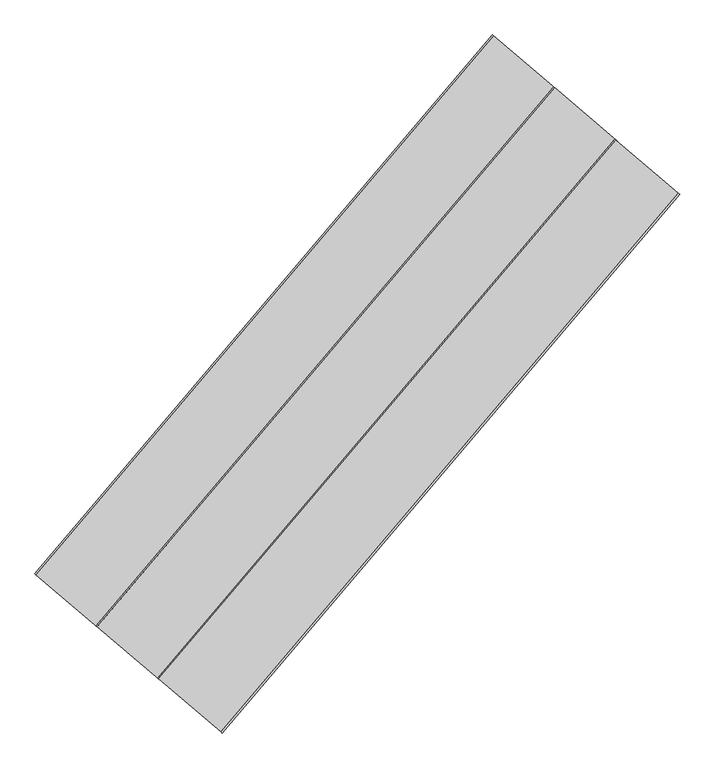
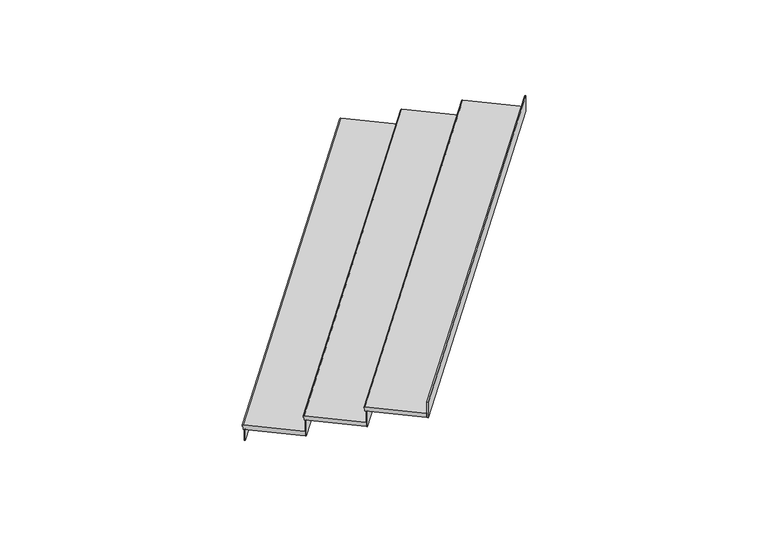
"""IFC4 building model written with IfcOpenShell, lengths in millimetres: stair flight geometry, Wood Steps with 50 mm Tread 20 mm Nosing 13 mm Riser."""

from ifc_helpers import new_model, si_unit, point, frame, frame_2d, origin, place, context, project, spatial, polyline, circle_curve, trimmed, segment, composite_curve, outline, extrude, source, transform, mapped, element, save


def stair_flight_5fbceaa4(model_context):
    return source(origin(), model_context, "Body", "SweptSolid", [
        extrude(outline(composite_curve([segment(polyline([(0.0, -598.4107719), (0.0, 0.0)]), True, "CONTINUOUS"), segment(trimmed(circle_curve(frame_2d((10.0, 0.0)), 10.0), [point((0.0, 0.0))], [point((20.0, 0.0))], False, "CARTESIAN"), True, "CONTINUOUS"), segment(polyline([(20.0, 0.0), (50.0, 0.0), (50.0, -598.4107719), (0.0, -598.4107719)]), True, "CONTINUOUS")], self_intersect=False)), frame((830959.1454458, 54663.5315135, 1179.2941176), z_axis=(0.647356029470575, 0.7621877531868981, 0.0), x_axis=(0.0, 0.0, -1.0)), (0.0, 0.0, 1.0), 5166.7714567),
        extrude(outline(polyline([(830976.2946702, 54648.9660029), (830966.7673233, 54657.0579532), (834311.5079787, 58595.1078811), (834321.0353256, 58587.0159307), (830976.2946702, 54648.9660029)])), frame((0.0, 0.0, 1000.0), z_axis=(0.0, 0.0, 1.0), x_axis=(1.0, 0.0, 0.0)), (0.0, 0.0, 1.0), 129.2941176),
        extrude(outline(polyline([(831424.7741545, 54268.0547418), (831415.2468075, 54276.1466922), (834759.987463, 58214.19662), (834769.5148099, 58206.1046697), (831424.7741545, 54268.0547418)])), frame((0.0, 0.0, 1129.2941176), z_axis=(0.0, 0.0, 1.0), x_axis=(1.0, 0.0, 0.0)), (0.0, 0.0, 1.0), 179.2941176),
        extrude(outline(composite_curve([segment(polyline([(0.0, -598.410772), (0.0, 0.0)]), True, "CONTINUOUS"), segment(trimmed(circle_curve(frame_2d((10.0, 0.0)), 10.0), [point((0.0, 0.0))], [point((20.0, 0.0))], False, "CARTESIAN"), True, "CONTINUOUS"), segment(polyline([(20.0, 0.0), (50.0, 0.0), (50.0, -598.410772), (0.0, -598.410772)]), True, "CONTINUOUS")], self_intersect=False)), frame((831407.62493, 54282.6202525, 1358.5882353), z_axis=(0.647356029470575, 0.7621877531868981, 0.0), x_axis=(0.0, 0.0, -1.0)), (0.0, 0.0, 1.0), 5166.7714567),
        extrude(outline(polyline([(831873.2536387, 53887.1434808), (831863.7262918, 53895.2354311), (835208.4669472, 57833.285359), (835217.9942941, 57825.1934086), (831873.2536387, 53887.1434808)])), frame((0.0, 0.0, 1308.5882353), z_axis=(0.0, 0.0, 1.0), x_axis=(1.0, 0.0, 0.0)), (0.0, 0.0, 1.0), 179.2941176),
        extrude(outline(polyline([(832321.733123, 53506.2322197), (832312.205776, 53514.3241701), (835656.9464315, 57452.3740979), (835666.4737784, 57444.2821476), (832321.733123, 53506.2322197)])), frame((0.0, 0.0, 1487.8823529), z_axis=(0.0, 0.0, 1.0), x_axis=(1.0, 0.0, 0.0)), (0.0, 0.0, 1.0), 179.2941176),
        extrude(outline(composite_curve([segment(polyline([(0.0, -598.4107719), (0.0, 0.0)]), True, "CONTINUOUS"), segment(trimmed(circle_curve(frame_2d((10.0, 0.0)), 10.0), [point((0.0, 0.0))], [point((20.0, 0.0))], False, "CARTESIAN"), True, "CONTINUOUS"), segment(polyline([(20.0, 0.0), (50.0, 0.0), (50.0, -598.4107719), (0.0, -598.4107719)]), True, "CONTINUOUS")], self_intersect=False)), frame((831856.1044143, 53901.7089914, 1537.8823529), z_axis=(0.647356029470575, 0.7621877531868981, 0.0), x_axis=(0.0, 0.0, -1.0)), (0.0, 0.0, 1.0), 5166.7714567),
    ])


if __name__ == "__main__":
    model = new_model("IFC4")
    model_context = context("Model", 3, world=origin())
    ifc_project = project(units=[si_unit("LENGTHUNIT", "METRE", prefix="MILLI")], contexts=[model_context])
    site = spatial("IfcSite", under=ifc_project)
    building = spatial("IfcBuilding", under=site)
    placement = place(None, origin())
    stair_flight_shape = stair_flight_5fbceaa4(model_context)
    element("IfcStairFlight", 1, ObjectType="Wood Steps with 50 mm Tread 20 mm Nosing 13 mm Riser", at=placement, inside=building, context=model_context, shape_type="MappedRepresentation", body=[
        mapped(stair_flight_shape, transform((0.0, 0.0, 0.0), x_axis=(1.0, 0.0, 0.0), y_axis=(0.0, 1.0, 0.0), z_axis=(0.0, 0.0, 1.0))),
    ])
    save(model, "model.ifc")
